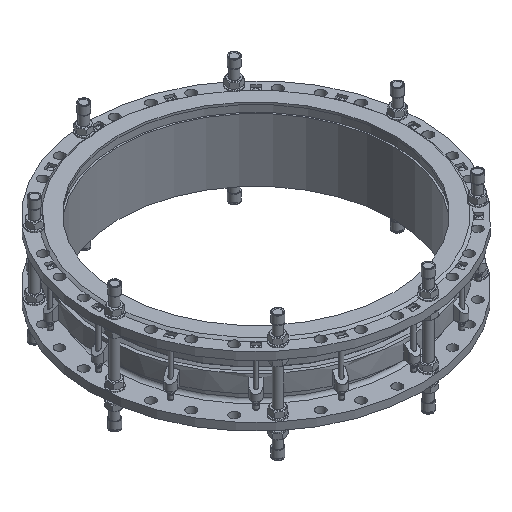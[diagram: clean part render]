
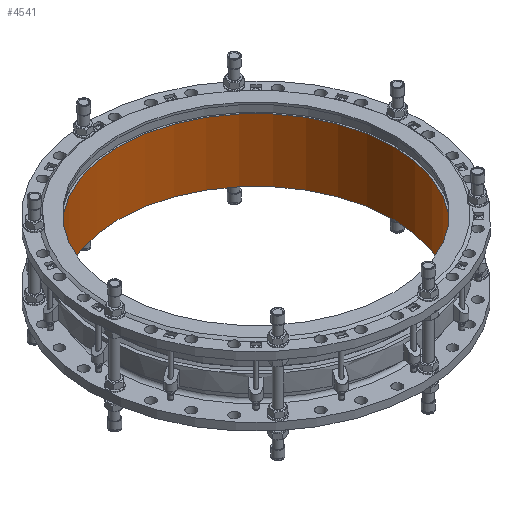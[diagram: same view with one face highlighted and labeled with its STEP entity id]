
A CAD part, isometric view. The second image highlights one B-rep face of the part: STEP entity #4541.
In plain terms, the highlighted cylindrical face has radius 600 mm (diameter 1200 mm), a full revolution.
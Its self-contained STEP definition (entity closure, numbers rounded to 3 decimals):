
#4541=ADVANCED_FACE('',(#5430,#5432),#5434,.F.);
#5430=FACE_OUTER_BOUND('',#5431,.T.);
#5431=EDGE_LOOP('',(#9558));
#5432=FACE_OUTER_BOUND('',#5433,.T.);
#5433=EDGE_LOOP('',(#9559));
#5434=CYLINDRICAL_SURFACE('',#5435,600.);
#5435=AXIS2_PLACEMENT_3D('',#5436,#5437,#5438);
#5436=CARTESIAN_POINT('',(0.,0.,0.));
#5437=DIRECTION('',(0.,0.,1.));
#5438=DIRECTION('',(-1.,0.,0.));
#9558=ORIENTED_EDGE('',*,*,#12493,.F.);
#9559=ORIENTED_EDGE('',*,*,#12494,.F.);
#12493=EDGE_CURVE('',#13876,#13876,#13877,.T.);
#12494=EDGE_CURVE('',#13878,#13878,#13879,.T.);
#13876=VERTEX_POINT('',#16255);
#13877=CIRCLE('',#16256,600.);
#13878=VERTEX_POINT('',#16260);
#13879=CIRCLE('',#16261,600.);
#16255=CARTESIAN_POINT('',(-600.,0.,276.));
#16256=AXIS2_PLACEMENT_3D('',#16257,#16258,#16259);
#16257=CARTESIAN_POINT('',(0.,0.,276.));
#16258=DIRECTION('',(0.,0.,-1.));
#16259=DIRECTION('',(-1.,0.,0.));
#16260=CARTESIAN_POINT('',(-600.,0.,0.));
#16261=AXIS2_PLACEMENT_3D('',#16262,#16263,#16264);
#16262=CARTESIAN_POINT('',(0.,0.,0.));
#16263=DIRECTION('',(0.,0.,1.));
#16264=DIRECTION('',(-1.,0.,0.));
